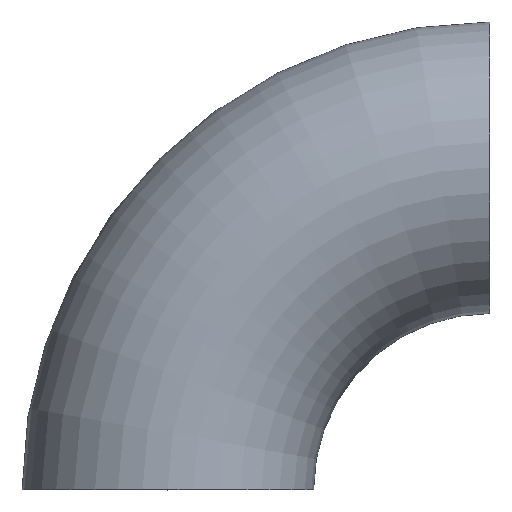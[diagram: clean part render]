
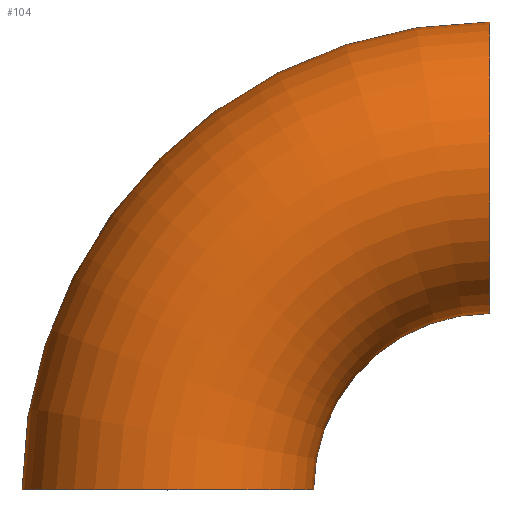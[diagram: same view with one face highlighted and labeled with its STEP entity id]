
A CAD part, top view. The second image highlights one B-rep face of the part: STEP entity #104.
In plain terms, the highlighted toroidal (fillet/blend) face has major radius 47.5 mm and minor radius 21.5 mm.
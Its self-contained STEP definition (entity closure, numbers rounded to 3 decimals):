
#2 = ORIENTED_EDGE ( 'NONE', *, *, #73, .F. ) ;
#12 = CARTESIAN_POINT ( 'NONE',  ( 47.5, 69., 0. ) ) ;
#23 = DIRECTION ( 'NONE',  ( 0., 1., 0. ) ) ;
#24 = CARTESIAN_POINT ( 'NONE',  ( 0., 0., 0. ) ) ;
#25 = DIRECTION ( 'NONE',  ( 1., 0., 0. ) ) ;
#30 = FACE_OUTER_BOUND ( 'NONE', #129, .T. ) ;
#32 = EDGE_CURVE ( 'NONE', #68, #191, #34, .T. ) ;
#34 = CIRCLE ( 'NONE', #152, 21.5 ) ;
#41 = CIRCLE ( 'NONE', #202, 21.5 ) ;
#42 = DIRECTION ( 'NONE',  ( 1., 0., 0. ) ) ;
#63 = CARTESIAN_POINT ( 'NONE',  ( 47.5, 0., 0. ) ) ;
#68 = VERTEX_POINT ( 'NONE', #176 ) ;
#73 = EDGE_CURVE ( 'NONE', #252, #251, #41, .T. ) ;
#86 = DIRECTION ( 'NONE',  ( 0., 0., 1. ) ) ;
#96 = DIRECTION ( 'NONE',  ( 1., 0., 0. ) ) ;
#97 = DIRECTION ( 'NONE',  ( 0., 0., 1. ) ) ;
#98 = DIRECTION ( 'NONE',  ( 0., 0., 1. ) ) ;
#101 = CARTESIAN_POINT ( 'NONE',  ( 21.5, 0., 0. ) ) ;
#103 = CARTESIAN_POINT ( 'NONE',  ( 47.5, 0., 0. ) ) ;
#104 = ADVANCED_FACE ( 'NONE', ( #30 ), #149, .T. ) ;
#106 = ORIENTED_EDGE ( 'NONE', *, *, #161, .F. ) ;
#107 = CIRCLE ( 'NONE', #130, 69. ) ;
#114 = DIRECTION ( 'NONE',  ( 0., 0., 1. ) ) ;
#123 = CARTESIAN_POINT ( 'NONE',  ( 47.5, 26., 0. ) ) ;
#126 = ORIENTED_EDGE ( 'NONE', *, *, #32, .T. ) ;
#129 = EDGE_LOOP ( 'NONE', ( #2, #157, #126, #106 ) ) ;
#130 = AXIS2_PLACEMENT_3D ( 'NONE', #103, #146, #42 ) ;
#146 = DIRECTION ( 'NONE',  ( 0., 0., 1. ) ) ;
#149 = TOROIDAL_SURFACE ( 'NONE', #220, 47.5, 21.5 ) ;
#151 = CIRCLE ( 'NONE', #228, 26. ) ;
#152 = AXIS2_PLACEMENT_3D ( 'NONE', #24, #23, #97 ) ;
#153 = CARTESIAN_POINT ( 'NONE',  ( 47.5, 47.5, 0. ) ) ;
#157 = ORIENTED_EDGE ( 'NONE', *, *, #231, .T. ) ;
#161 = EDGE_CURVE ( 'NONE', #251, #191, #151, .T. ) ;
#176 = CARTESIAN_POINT ( 'NONE',  ( -21.5, 0., 0. ) ) ;
#191 = VERTEX_POINT ( 'NONE', #101 ) ;
#202 = AXIS2_PLACEMENT_3D ( 'NONE', #153, #96, #114 ) ;
#208 = CARTESIAN_POINT ( 'NONE',  ( 47.5, 0., 0. ) ) ;
#220 = AXIS2_PLACEMENT_3D ( 'NONE', #208, #98, #234 ) ;
#228 = AXIS2_PLACEMENT_3D ( 'NONE', #63, #86, #25 ) ;
#231 = EDGE_CURVE ( 'NONE', #252, #68, #107, .T. ) ;
#234 = DIRECTION ( 'NONE',  ( 1., 0., 0. ) ) ;
#251 = VERTEX_POINT ( 'NONE', #123 ) ;
#252 = VERTEX_POINT ( 'NONE', #12 ) ;
